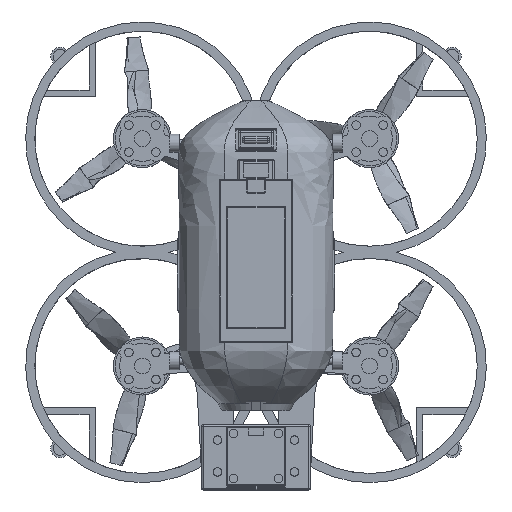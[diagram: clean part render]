
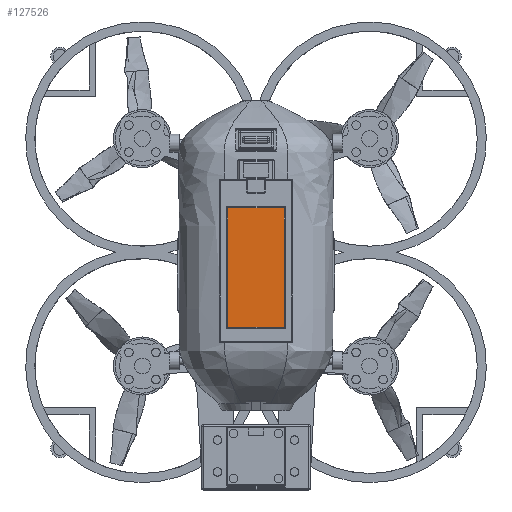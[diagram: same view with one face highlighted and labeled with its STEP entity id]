
A CAD part, top view. The second image highlights one B-rep face of the part: STEP entity #127526.
In plain terms, the highlighted planar face has unit normal (0, 0, 1).
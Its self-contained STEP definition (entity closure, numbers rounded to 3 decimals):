
#126935 = CYLINDRICAL_SURFACE('',#126936,0.6);
#126936 = AXIS2_PLACEMENT_3D('',#126937,#126938,#126939);
#126937 = CARTESIAN_POINT('',(-12.4,-34.,109.1));
#126938 = DIRECTION('',(0.,1.,0.));
#126939 = DIRECTION('',(-1.,0.,0.));
#127122 = VERTEX_POINT('',#127123);
#127123 = CARTESIAN_POINT('',(-12.4,-33.4,109.7));
#127145 = EDGE_CURVE('',#127122,#127146,#127148,.T.);
#127146 = VERTEX_POINT('',#127147);
#127147 = CARTESIAN_POINT('',(-12.4,19.4,109.7));
#127148 = SURFACE_CURVE('',#127149,(#127153,#127160),.PCURVE_S1.);
#127149 = LINE('',#127150,#127151);
#127150 = CARTESIAN_POINT('',(-12.4,-34.,109.7));
#127151 = VECTOR('',#127152,1.);
#127152 = DIRECTION('',(0.,1.,0.));
#127153 = PCURVE('',#126935,#127154);
#127154 = DEFINITIONAL_REPRESENTATION('',(#127155),#127159);
#127155 = LINE('',#127156,#127157);
#127156 = CARTESIAN_POINT('',(1.571,0.));
#127157 = VECTOR('',#127158,1.);
#127158 = DIRECTION('',(0.,1.));
#127159 = ( GEOMETRIC_REPRESENTATION_CONTEXT(2) 
PARAMETRIC_REPRESENTATION_CONTEXT() REPRESENTATION_CONTEXT('2D SPACE',''
  ) );
#127160 = PCURVE('',#127161,#127166);
#127161 = PLANE('',#127162);
#127162 = AXIS2_PLACEMENT_3D('',#127163,#127164,#127165);
#127163 = CARTESIAN_POINT('',(-13.,-34.,109.7));
#127164 = DIRECTION('',(0.,0.,1.));
#127165 = DIRECTION('',(1.,0.,0.));
#127166 = DEFINITIONAL_REPRESENTATION('',(#127167),#127171);
#127167 = LINE('',#127168,#127169);
#127168 = CARTESIAN_POINT('',(0.6,0.));
#127169 = VECTOR('',#127170,1.);
#127170 = DIRECTION('',(0.,1.));
#127171 = ( GEOMETRIC_REPRESENTATION_CONTEXT(2) 
PARAMETRIC_REPRESENTATION_CONTEXT() REPRESENTATION_CONTEXT('2D SPACE',''
  ) );
#127330 = CYLINDRICAL_SURFACE('',#127331,0.6);
#127331 = AXIS2_PLACEMENT_3D('',#127332,#127333,#127334);
#127332 = CARTESIAN_POINT('',(-13.,-33.4,109.1));
#127333 = DIRECTION('',(1.,0.,0.));
#127334 = DIRECTION('',(0.,-1.,0.));
#127526 = ADVANCED_FACE('',(#127527),#127161,.T.);
#127527 = FACE_BOUND('',#127528,.T.);
#127528 = EDGE_LOOP('',(#127529,#127530,#127553,#127581));
#127529 = ORIENTED_EDGE('',*,*,#127145,.F.);
#127530 = ORIENTED_EDGE('',*,*,#127531,.T.);
#127531 = EDGE_CURVE('',#127122,#127532,#127534,.T.);
#127532 = VERTEX_POINT('',#127533);
#127533 = CARTESIAN_POINT('',(12.4,-33.4,109.7));
#127534 = SURFACE_CURVE('',#127535,(#127539,#127546),.PCURVE_S1.);
#127535 = LINE('',#127536,#127537);
#127536 = CARTESIAN_POINT('',(-13.,-33.4,109.7));
#127537 = VECTOR('',#127538,1.);
#127538 = DIRECTION('',(1.,0.,0.));
#127539 = PCURVE('',#127161,#127540);
#127540 = DEFINITIONAL_REPRESENTATION('',(#127541),#127545);
#127541 = LINE('',#127542,#127543);
#127542 = CARTESIAN_POINT('',(0.,0.6));
#127543 = VECTOR('',#127544,1.);
#127544 = DIRECTION('',(1.,0.));
#127545 = ( GEOMETRIC_REPRESENTATION_CONTEXT(2) 
PARAMETRIC_REPRESENTATION_CONTEXT() REPRESENTATION_CONTEXT('2D SPACE',''
  ) );
#127546 = PCURVE('',#127330,#127547);
#127547 = DEFINITIONAL_REPRESENTATION('',(#127548),#127552);
#127548 = LINE('',#127549,#127550);
#127549 = CARTESIAN_POINT('',(-1.571,0.));
#127550 = VECTOR('',#127551,1.);
#127551 = DIRECTION('',(-0.,1.));
#127552 = ( GEOMETRIC_REPRESENTATION_CONTEXT(2) 
PARAMETRIC_REPRESENTATION_CONTEXT() REPRESENTATION_CONTEXT('2D SPACE',''
  ) );
#127553 = ORIENTED_EDGE('',*,*,#127554,.T.);
#127554 = EDGE_CURVE('',#127532,#127555,#127557,.T.);
#127555 = VERTEX_POINT('',#127556);
#127556 = CARTESIAN_POINT('',(12.4,19.4,109.7));
#127557 = SURFACE_CURVE('',#127558,(#127562,#127569),.PCURVE_S1.);
#127558 = LINE('',#127559,#127560);
#127559 = CARTESIAN_POINT('',(12.4,-34.,109.7));
#127560 = VECTOR('',#127561,1.);
#127561 = DIRECTION('',(0.,1.,0.));
#127562 = PCURVE('',#127161,#127563);
#127563 = DEFINITIONAL_REPRESENTATION('',(#127564),#127568);
#127564 = LINE('',#127565,#127566);
#127565 = CARTESIAN_POINT('',(25.4,0.));
#127566 = VECTOR('',#127567,1.);
#127567 = DIRECTION('',(0.,1.));
#127568 = ( GEOMETRIC_REPRESENTATION_CONTEXT(2) 
PARAMETRIC_REPRESENTATION_CONTEXT() REPRESENTATION_CONTEXT('2D SPACE',''
  ) );
#127569 = PCURVE('',#127570,#127575);
#127570 = CYLINDRICAL_SURFACE('',#127571,0.6);
#127571 = AXIS2_PLACEMENT_3D('',#127572,#127573,#127574);
#127572 = CARTESIAN_POINT('',(12.4,-34.,109.1));
#127573 = DIRECTION('',(0.,1.,0.));
#127574 = DIRECTION('',(1.,0.,-0.));
#127575 = DEFINITIONAL_REPRESENTATION('',(#127576),#127580);
#127576 = LINE('',#127577,#127578);
#127577 = CARTESIAN_POINT('',(-1.571,0.));
#127578 = VECTOR('',#127579,1.);
#127579 = DIRECTION('',(-0.,1.));
#127580 = ( GEOMETRIC_REPRESENTATION_CONTEXT(2) 
PARAMETRIC_REPRESENTATION_CONTEXT() REPRESENTATION_CONTEXT('2D SPACE',''
  ) );
#127581 = ORIENTED_EDGE('',*,*,#127582,.F.);
#127582 = EDGE_CURVE('',#127146,#127555,#127583,.T.);
#127583 = SURFACE_CURVE('',#127584,(#127588,#127595),.PCURVE_S1.);
#127584 = LINE('',#127585,#127586);
#127585 = CARTESIAN_POINT('',(-13.,19.4,109.7));
#127586 = VECTOR('',#127587,1.);
#127587 = DIRECTION('',(1.,0.,0.));
#127588 = PCURVE('',#127161,#127589);
#127589 = DEFINITIONAL_REPRESENTATION('',(#127590),#127594);
#127590 = LINE('',#127591,#127592);
#127591 = CARTESIAN_POINT('',(0.,53.4));
#127592 = VECTOR('',#127593,1.);
#127593 = DIRECTION('',(1.,0.));
#127594 = ( GEOMETRIC_REPRESENTATION_CONTEXT(2) 
PARAMETRIC_REPRESENTATION_CONTEXT() REPRESENTATION_CONTEXT('2D SPACE',''
  ) );
#127595 = PCURVE('',#127596,#127601);
#127596 = CYLINDRICAL_SURFACE('',#127597,0.6);
#127597 = AXIS2_PLACEMENT_3D('',#127598,#127599,#127600);
#127598 = CARTESIAN_POINT('',(-13.,19.4,109.1));
#127599 = DIRECTION('',(1.,0.,0.));
#127600 = DIRECTION('',(-0.,1.,0.));
#127601 = DEFINITIONAL_REPRESENTATION('',(#127602),#127606);
#127602 = LINE('',#127603,#127604);
#127603 = CARTESIAN_POINT('',(1.571,0.));
#127604 = VECTOR('',#127605,1.);
#127605 = DIRECTION('',(0.,1.));
#127606 = ( GEOMETRIC_REPRESENTATION_CONTEXT(2) 
PARAMETRIC_REPRESENTATION_CONTEXT() REPRESENTATION_CONTEXT('2D SPACE',''
  ) );
